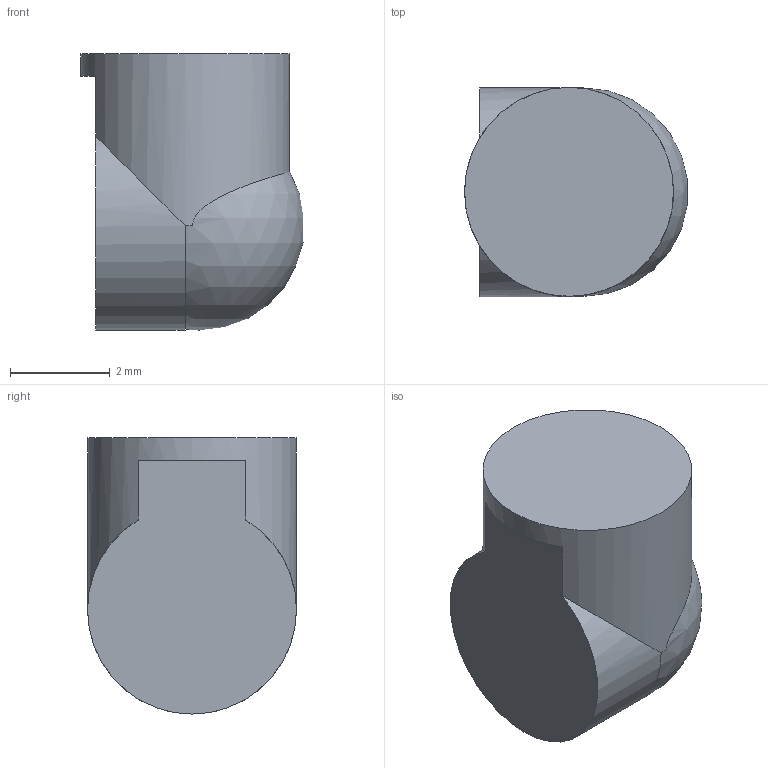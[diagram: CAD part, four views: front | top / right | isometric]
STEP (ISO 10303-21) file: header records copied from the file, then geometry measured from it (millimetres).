
FILE_DESCRIPTION(/* description */ (''),/* implementation_level */ '2;1');
FILE_NAME(/* name */ 'C27_R2_Internal_Right_Angle_Light_Coupler.step',/* time_stamp */ '2026-09-10T17:49:25-07:00',/* author */ (''),/* organization */ (''),/* preprocessor_version */ 'ST-DEVELOPER v20.1',/* originating_system */ 'Autodesk Translation Framework v15.8.0.0',/* authorisation */ '');
FILE_SCHEMA (('AUTOMOTIVE_DESIGN { 1 0 10303 214 3 1 1 }'));
Length unit declared in the file: millimetre
Products named in the file (1): 2026-09-10-17-49-24-982
Bounding box: 4.48 x 4.2 x 5.55 mm (x, y, z)
Volume: 72.5 mm3; surface area: 96.7 mm2
Topology: 1 solids, 1 shells, 9 faces, 22 edges, 14 vertices
Faces by surface type: plane 6, cylinder 2, sphere 1
Full cylindrical faces by diameter (mm): 4.2 x1
Entity records: 329 total; most frequent: CARTESIAN_POINT 74, DIRECTION 54, ORIENTED_EDGE 42, AXIS2_PLACEMENT_3D 24, EDGE_CURVE 21, VERTEX_POINT 14, CIRCLE 12, FACE_OUTER_BOUND 9
